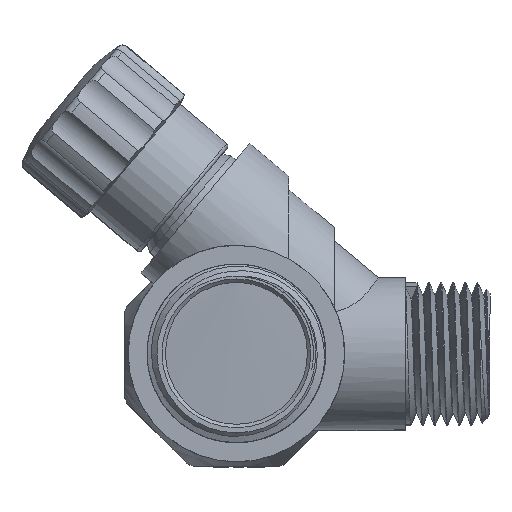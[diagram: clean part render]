
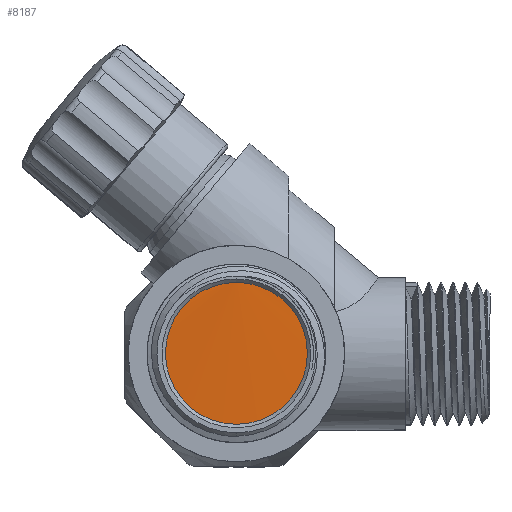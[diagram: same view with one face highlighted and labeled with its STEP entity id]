
A CAD part, top view. The second image highlights one B-rep face of the part: STEP entity #8187.
In plain terms, the highlighted cylindrical face has radius 11.4 mm (diameter 22.8 mm), a full revolution.
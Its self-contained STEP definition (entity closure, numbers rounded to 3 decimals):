
#397=FACE_OUTER_BOUND('',#866,.T.);
#866=EDGE_LOOP('',(#5334,#5335,#5336));
#1697=B_SPLINE_CURVE_WITH_KNOTS('',3,(#11624,#11625,#11626,#11627,#11628,
#11629,#11630,#11631,#11632,#11633,#11634,#11635,#11636,#11637,#11638,#11639,
#11640),.UNSPECIFIED.,.F.,.F.,(4,1,1,1,1,1,1,1,1,1,1,1,1,1,4),(9.425,
9.55,10.043,10.536,11.029,11.522,
12.015,12.508,13.001,13.494,13.987,
14.48,14.973,15.466,15.708),
 .UNSPECIFIED.);
#2144=LINE('',#11621,#2628);
#2145=LINE('',#11623,#2629);
#2628=VECTOR('',#9487,11.4);
#2629=VECTOR('',#9488,11.4);
#3116=VERTEX_POINT('',#11619);
#3117=VERTEX_POINT('',#11620);
#3118=VERTEX_POINT('',#11622);
#4008=EDGE_CURVE('',#3116,#3117,#2144,.T.);
#4009=EDGE_CURVE('',#3118,#3116,#2145,.T.);
#4010=EDGE_CURVE('',#3118,#3117,#1697,.T.);
#5334=ORIENTED_EDGE('',*,*,#4008,.F.);
#5335=ORIENTED_EDGE('',*,*,#4009,.F.);
#5336=ORIENTED_EDGE('',*,*,#4010,.T.);
#7979=CYLINDRICAL_SURFACE('',#8677,11.4);
#8187=ADVANCED_FACE('',(#397),#7979,.T.);
#8677=AXIS2_PLACEMENT_3D('',#11618,#9485,#9486);
#9485=DIRECTION('center_axis',(0.,0.,-1.));
#9486=DIRECTION('ref_axis',(0.,-1.,0.));
#9487=DIRECTION('',(0.,0.,-1.));
#9488=DIRECTION('',(0.,0.,-1.));
#11618=CARTESIAN_POINT('Origin',(0.,0.,46.85));
#11619=CARTESIAN_POINT('',(0.,11.4,44.1));
#11620=CARTESIAN_POINT('',(0.,11.4,42.4));
#11621=CARTESIAN_POINT('',(0.,11.4,46.85));
#11622=CARTESIAN_POINT('',(0.,11.4,44.2));
#11623=CARTESIAN_POINT('',(0.,11.4,46.85));
#11624=CARTESIAN_POINT('Ctrl Pts',(0.,11.4,
44.2));
#11625=CARTESIAN_POINT('Ctrl Pts',(0.477,11.4,44.188));
#11626=CARTESIAN_POINT('Ctrl Pts',(2.827,11.255,44.129));
#11627=CARTESIAN_POINT('Ctrl Pts',(6.884,9.673,44.023));
#11628=CARTESIAN_POINT('Ctrl Pts',(10.642,5.263,43.882));
#11629=CARTESIAN_POINT('Ctrl Pts',(11.865,-0.4,
43.74));
#11630=CARTESIAN_POINT('Ctrl Pts',(10.263,-5.968,43.599));
#11631=CARTESIAN_POINT('Ctrl Pts',(6.217,-10.114,43.458));
#11632=CARTESIAN_POINT('Ctrl Pts',(0.69,-11.852,
43.317));
#11633=CARTESIAN_POINT('Ctrl Pts',(-5.001,-10.767,
43.175));
#11634=CARTESIAN_POINT('Ctrl Pts',(-9.501,-7.119,
43.034));
#11635=CARTESIAN_POINT('Ctrl Pts',(-11.739,-1.775,42.893));
#11636=CARTESIAN_POINT('Ctrl Pts',(-11.181,3.992,42.752));
#11637=CARTESIAN_POINT('Ctrl Pts',(-7.96,8.808,42.611));
#11638=CARTESIAN_POINT('Ctrl Pts',(-3.713,11.065,42.493));
#11639=CARTESIAN_POINT('Ctrl Pts',(-0.919,11.399,
42.423));
#11640=CARTESIAN_POINT('Ctrl Pts',(0.,11.399,
42.4));
